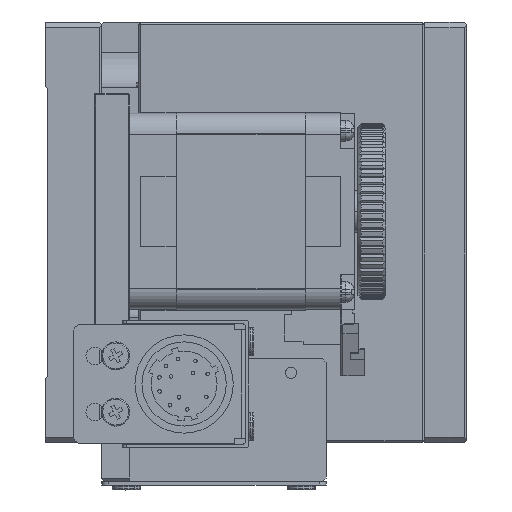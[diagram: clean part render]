
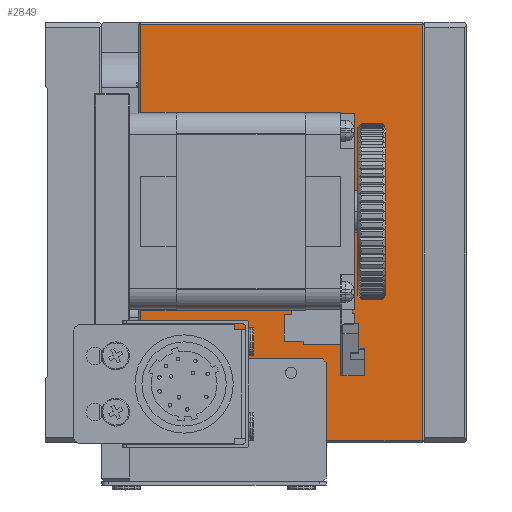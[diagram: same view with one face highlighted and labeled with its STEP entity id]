
A CAD part, left-side view. The second image highlights one B-rep face of the part: STEP entity #2849.
In plain terms, the highlighted planar face has unit normal (-1, 0, 0).
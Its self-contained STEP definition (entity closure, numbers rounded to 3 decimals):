
#668 = DIRECTION ( 'NONE',  ( 0., 0., 1. ) ) ;
#1283 = VERTEX_POINT ( 'NONE', #17373 ) ;
#2366 = VECTOR ( 'NONE', #76608, 1000. ) ;
#2849 = ADVANCED_FACE ( 'NONE', ( #46071, #89561, #163651, #148259 ), #31527, .F. ) ;
#5986 = VECTOR ( 'NONE', #162601, 1000. ) ;
#8995 = EDGE_CURVE ( 'NONE', #84570, #83488, #190486, .T. ) ;
#10724 = CARTESIAN_POINT ( 'NONE',  ( 77.47, -184.394, 20.977 ) ) ;
#11265 = DIRECTION ( 'NONE',  ( 0., 0., 1. ) ) ;
#13586 = DIRECTION ( 'NONE',  ( 1., 0., 0. ) ) ;
#14290 = LINE ( 'NONE', #144650, #130600 ) ;
#17373 = CARTESIAN_POINT ( 'NONE',  ( 77.47, -187.994, 17.277 ) ) ;
#19670 = ORIENTED_EDGE ( 'NONE', *, *, #97938, .T. ) ;
#20072 = VERTEX_POINT ( 'NONE', #109288 ) ;
#21921 = EDGE_CURVE ( 'NONE', #158447, #68065, #95235, .T. ) ;
#22578 = CARTESIAN_POINT ( 'NONE',  ( 77.47, -178.994, 39.977 ) ) ;
#26368 = DIRECTION ( 'NONE',  ( 1., 0., 0. ) ) ;
#29078 = DIRECTION ( 'NONE',  ( 0., 0., -1. ) ) ;
#29986 = ORIENTED_EDGE ( 'NONE', *, *, #167385, .T. ) ;
#30043 = CARTESIAN_POINT ( 'NONE',  ( 77.47, -202.494, 17.277 ) ) ;
#30988 = CARTESIAN_POINT ( 'NONE',  ( 77.47, -202.494, 76.677 ) ) ;
#31079 = VECTOR ( 'NONE', #46933, 1000. ) ;
#31224 = CARTESIAN_POINT ( 'NONE',  ( 77.47, -178.994, 39.977 ) ) ;
#31527 = PLANE ( 'NONE',  #185077 ) ;
#32768 = VERTEX_POINT ( 'NONE', #133697 ) ;
#33738 = ORIENTED_EDGE ( 'NONE', *, *, #21921, .F. ) ;
#35619 = CIRCLE ( 'NONE', #72797, 2.8 ) ;
#35894 = EDGE_CURVE ( 'NONE', #52662, #84570, #159793, .T. ) ;
#41521 = EDGE_LOOP ( 'NONE', ( #117682, #169261 ) ) ;
#42674 = LINE ( 'NONE', #158444, #60112 ) ;
#43830 = CARTESIAN_POINT ( 'NONE',  ( 77.47, -182.394, 46.977 ) ) ;
#46071 = FACE_BOUND ( 'NONE', #80642, .T. ) ;
#46933 = DIRECTION ( 'NONE',  ( 0., 0., -1. ) ) ;
#47168 = CIRCLE ( 'NONE', #130229, 3. ) ;
#51686 = DIRECTION ( 'NONE',  ( 0., 0., 1. ) ) ;
#52662 = VERTEX_POINT ( 'NONE', #30988 ) ;
#56520 = CARTESIAN_POINT ( 'NONE',  ( 77.47, -184.394, 23.777 ) ) ;
#57677 = EDGE_CURVE ( 'NONE', #59549, #52662, #14290, .T. ) ;
#59549 = VERTEX_POINT ( 'NONE', #30043 ) ;
#60112 = VECTOR ( 'NONE', #29078, 1000. ) ;
#62395 = CARTESIAN_POINT ( 'NONE',  ( 77.47, -162.294, 46.977 ) ) ;
#68065 = VERTEX_POINT ( 'NONE', #88594 ) ;
#70600 = EDGE_CURVE ( 'NONE', #32768, #109219, #143847, .T. ) ;
#72797 = AXIS2_PLACEMENT_3D ( 'NONE', #10724, #13586, #84304 ) ;
#75018 = CARTESIAN_POINT ( 'NONE',  ( 77.47, -161.994, 17.477 ) ) ;
#76608 = DIRECTION ( 'NONE',  ( 0., -1., 0. ) ) ;
#80642 = EDGE_LOOP ( 'NONE', ( #167581, #29986 ) ) ;
#83488 = VERTEX_POINT ( 'NONE', #85517 ) ;
#84304 = DIRECTION ( 'NONE',  ( 0., 0., -1. ) ) ;
#84570 = VERTEX_POINT ( 'NONE', #121798 ) ;
#85517 = CARTESIAN_POINT ( 'NONE',  ( 77.47, -162.294, 17.477 ) ) ;
#86635 = LINE ( 'NONE', #75018, #5986 ) ;
#87735 = ORIENTED_EDGE ( 'NONE', *, *, #148709, .F. ) ;
#88594 = CARTESIAN_POINT ( 'NONE',  ( 77.47, -178.994, 56.977 ) ) ;
#88742 = DIRECTION ( 'NONE',  ( -1., 0., 0. ) ) ;
#89391 = ORIENTED_EDGE ( 'NONE', *, *, #8995, .T. ) ;
#89522 = DIRECTION ( 'NONE',  ( 0., 1., 0. ) ) ;
#89561 = FACE_BOUND ( 'NONE', #161060, .T. ) ;
#89716 = AXIS2_PLACEMENT_3D ( 'NONE', #157993, #157008, #11265 ) ;
#91713 = CARTESIAN_POINT ( 'NONE',  ( 77.47, -178.994, 50.977 ) ) ;
#95235 = CIRCLE ( 'NONE', #119803, 3. ) ;
#96499 = EDGE_CURVE ( 'NONE', #154761, #141520, #100719, .T. ) ;
#96632 = ORIENTED_EDGE ( 'NONE', *, *, #154319, .F. ) ;
#97938 = EDGE_CURVE ( 'NONE', #1283, #59549, #133402, .T. ) ;
#99742 = ORIENTED_EDGE ( 'NONE', *, *, #101702, .T. ) ;
#100719 = CIRCLE ( 'NONE', #168571, 2.8 ) ;
#101702 = EDGE_CURVE ( 'NONE', #20072, #1283, #42674, .T. ) ;
#105936 = CARTESIAN_POINT ( 'NONE',  ( 77.47, -178.994, 53.977 ) ) ;
#106426 = DIRECTION ( 'NONE',  ( 0., 0., 1. ) ) ;
#109219 = VERTEX_POINT ( 'NONE', #158799 ) ;
#109288 = CARTESIAN_POINT ( 'NONE',  ( 77.47, -187.994, 17.477 ) ) ;
#116034 = AXIS2_PLACEMENT_3D ( 'NONE', #31224, #175937, #106426 ) ;
#117682 = ORIENTED_EDGE ( 'NONE', *, *, #180833, .F. ) ;
#119803 = AXIS2_PLACEMENT_3D ( 'NONE', #105936, #88742, #668 ) ;
#121798 = CARTESIAN_POINT ( 'NONE',  ( 77.47, -162.294, 76.677 ) ) ;
#126583 = EDGE_LOOP ( 'NONE', ( #99742, #19670, #160350, #176447, #89391, #96632 ) ) ;
#128600 = DIRECTION ( 'NONE',  ( 0., 0., -1. ) ) ;
#128958 = CARTESIAN_POINT ( 'NONE',  ( 77.47, -182.394, 76.677 ) ) ;
#130157 = DIRECTION ( 'NONE',  ( 0., 0., 1. ) ) ;
#130229 = AXIS2_PLACEMENT_3D ( 'NONE', #22578, #172765, #51686 ) ;
#130600 = VECTOR ( 'NONE', #130157, 1000. ) ;
#133402 = LINE ( 'NONE', #150740, #2366 ) ;
#133697 = CARTESIAN_POINT ( 'NONE',  ( 77.47, -178.994, 36.977 ) ) ;
#141520 = VERTEX_POINT ( 'NONE', #163427 ) ;
#143847 = CIRCLE ( 'NONE', #116034, 3. ) ;
#144650 = CARTESIAN_POINT ( 'NONE',  ( 77.47, -202.494, 46.977 ) ) ;
#148097 = CIRCLE ( 'NONE', #89716, 3. ) ;
#148259 = FACE_OUTER_BOUND ( 'NONE', #126583, .T. ) ;
#148709 = EDGE_CURVE ( 'NONE', #68065, #158447, #148097, .T. ) ;
#150740 = CARTESIAN_POINT ( 'NONE',  ( 77.47, -182.394, 17.277 ) ) ;
#154319 = EDGE_CURVE ( 'NONE', #20072, #83488, #86635, .T. ) ;
#154761 = VERTEX_POINT ( 'NONE', #56520 ) ;
#157008 = DIRECTION ( 'NONE',  ( -1., 0., 0. ) ) ;
#157993 = CARTESIAN_POINT ( 'NONE',  ( 77.47, -178.994, 53.977 ) ) ;
#158444 = CARTESIAN_POINT ( 'NONE',  ( 77.47, -187.994, 17.477 ) ) ;
#158447 = VERTEX_POINT ( 'NONE', #91713 ) ;
#158799 = CARTESIAN_POINT ( 'NONE',  ( 77.47, -178.994, 42.977 ) ) ;
#159793 = LINE ( 'NONE', #128958, #188535 ) ;
#160350 = ORIENTED_EDGE ( 'NONE', *, *, #57677, .T. ) ;
#160447 = DIRECTION ( 'NONE',  ( 1., 0., 0. ) ) ;
#161060 = EDGE_LOOP ( 'NONE', ( #87735, #33738 ) ) ;
#162601 = DIRECTION ( 'NONE',  ( 0., 1., 0. ) ) ;
#163427 = CARTESIAN_POINT ( 'NONE',  ( 77.47, -184.394, 18.177 ) ) ;
#163651 = FACE_BOUND ( 'NONE', #41521, .T. ) ;
#167385 = EDGE_CURVE ( 'NONE', #141520, #154761, #35619, .T. ) ;
#167581 = ORIENTED_EDGE ( 'NONE', *, *, #96499, .T. ) ;
#168571 = AXIS2_PLACEMENT_3D ( 'NONE', #172063, #26368, #128600 ) ;
#169261 = ORIENTED_EDGE ( 'NONE', *, *, #70600, .F. ) ;
#172063 = CARTESIAN_POINT ( 'NONE',  ( 77.47, -184.394, 20.977 ) ) ;
#172765 = DIRECTION ( 'NONE',  ( -1., 0., 0. ) ) ;
#175937 = DIRECTION ( 'NONE',  ( -1., 0., 0. ) ) ;
#176447 = ORIENTED_EDGE ( 'NONE', *, *, #35894, .T. ) ;
#180833 = EDGE_CURVE ( 'NONE', #109219, #32768, #47168, .T. ) ;
#185077 = AXIS2_PLACEMENT_3D ( 'NONE', #43830, #160447, #188399 ) ;
#188399 = DIRECTION ( 'NONE',  ( 0., 0., -1. ) ) ;
#188535 = VECTOR ( 'NONE', #89522, 1000. ) ;
#190486 = LINE ( 'NONE', #62395, #31079 ) ;
